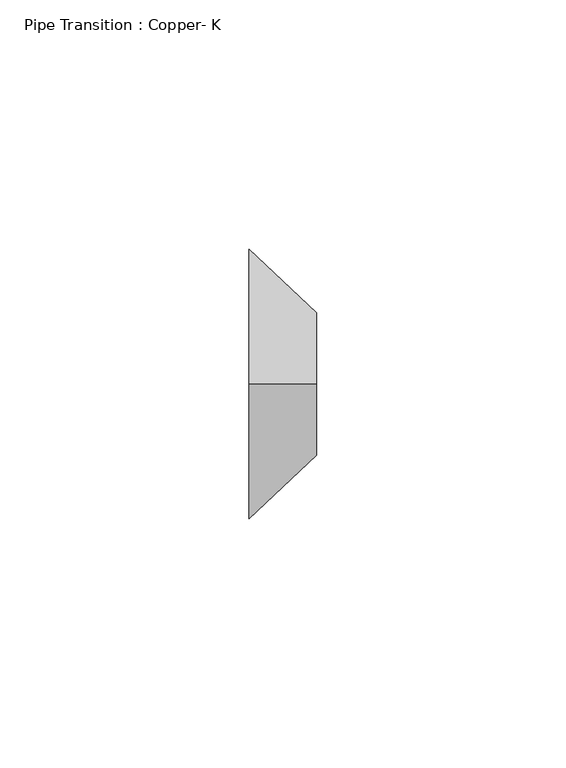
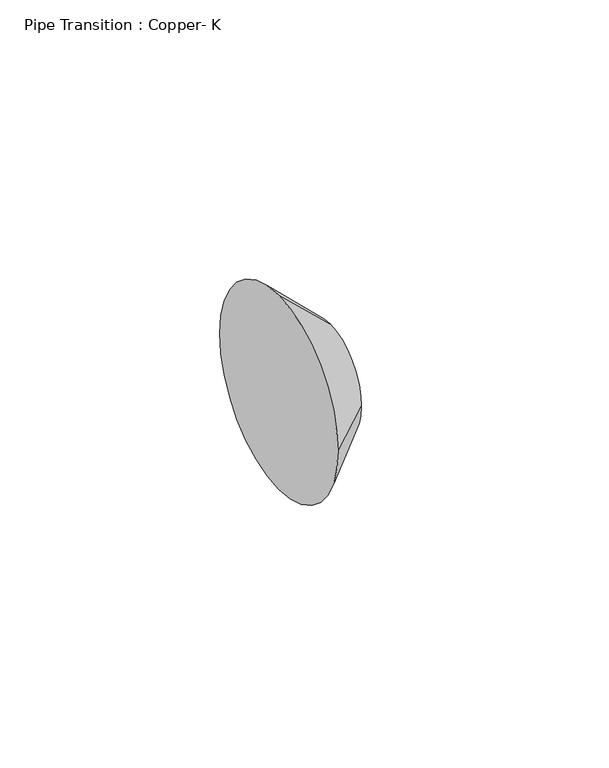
"""IFC4 building model written with IfcOpenShell, lengths in millimetres: pipe fitting geometry, Pipe Transition : Copper- K."""

from ifc_helpers import new_model, si_unit, frame, origin, place, context, project, spatial, polyline, circle_curve, source, transform, mapped, element, save
from ifc_brep_helpers import plane_surface, revolved_surface, advanced_brep


def pipe_transition_copper_k_5cd7eb3f(model_context):
    return source(origin(), model_context, "Body", "AdvancedBrep", [
        advanced_brep(
        [(13.49375, 0.0, 14.2875), (13.49375, -14.2875, 0.0), (13.49375, 0.0, -14.2875), (13.49375, 14.2875, 0.0), (0.0, 0.0, 26.9875), (0.0, 26.9875, 0.0), (0.0, 0.0, -26.9875), (0.0, -26.9875, 0.0)],
        [
            (0, 1, circle_curve(frame((13.49375, 0.0, 0.0), z_axis=(1.0, 0.0, 0.0), x_axis=(0.0, -1.0, 0.0)), 14.2875)),
            (1, 2, circle_curve(frame((13.49375, 0.0, 0.0), z_axis=(1.0, 0.0, 0.0), x_axis=(0.0, 0.0, -1.0)), 14.2875)),
            (2, 3, circle_curve(frame((13.49375, 0.0, 0.0), z_axis=(1.0, 0.0, 0.0), x_axis=(0.0, 1.0, 0.0)), 14.2875)),
            (3, 0, circle_curve(frame((13.49375, 0.0, 0.0), z_axis=(1.0, 0.0, 0.0), x_axis=(0.0, 0.0, 1.0)), 14.2875)),
            (4, 5, circle_curve(frame((0.0, 0.0, 0.0), z_axis=(-1.0, 0.0, 0.0), x_axis=(0.0, 0.0, 1.0)), 26.9875)),
            (5, 6, circle_curve(frame((0.0, 0.0, 0.0), z_axis=(-1.0, 0.0, 0.0), x_axis=(0.0, 1.0, 0.0)), 26.9875)),
            (6, 7, circle_curve(frame((0.0, 0.0, 0.0), z_axis=(-1.0, 0.0, 0.0), x_axis=(0.0, 0.0, -1.0)), 26.9875)),
            (7, 4, circle_curve(frame((0.0, 0.0, 0.0), z_axis=(-1.0, 0.0, 0.0), x_axis=(0.0, -1.0, 0.0)), 26.9875)),
            (4, 0),
            (3, 5),
            (2, 6),
            (1, 7),
        ],
        [
            plane_surface(frame((13.49375, 0.0, 0.0), z_axis=(1.0, 0.0, 0.0), x_axis=(0.0, 1.0, 0.0))),
            plane_surface(frame((0.0, 0.0, 0.0), z_axis=(-1.0, 0.0, 0.0), x_axis=(0.0, 1.0, 0.0))),
            revolved_surface(polyline([(13.493750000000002, 0.0, 14.287500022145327), (0.0, 0.0, 26.9875)]), (28.6742188, 0.0, 0.0), (-1.0, 0.0, 0.0)),
            revolved_surface(polyline([(13.493750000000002, 14.287500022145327, 0.0), (0.0, 26.9875, 0.0)]), (28.6742188, 0.0, 0.0), (-1.0, 0.0, 0.0)),
            revolved_surface(polyline([(13.493750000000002, 0.0, -14.287500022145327), (0.0, 0.0, -26.9875)]), (28.6742188, 0.0, 0.0), (-1.0, 0.0, 0.0)),
            revolved_surface(polyline([(13.493750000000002, -14.287500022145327, 0.0), (0.0, -26.9875, 0.0)]), (28.6742188, 0.0, 0.0), (-1.0, 0.0, 0.0)),
        ],
        [
            (0, [[1, 2, 3, 4]]),
            (1, [[5, 6, 7, 8]]),
            (2, [[9, -4, 10, -5]]),
            (3, [[-10, -3, 11, -6]]),
            (4, [[-11, -2, 12, -7]]),
            (5, [[-12, -1, -9, -8]]),
        ],
    ),
        advanced_brep(
        [(13.49375, 0.0, 14.2875), (13.49375, -14.2875, 0.0), (13.49375, 0.0, -14.2875), (13.49375, 14.2875, 0.0), (0.0, 0.0, 26.9875), (0.0, 26.9875, 0.0), (0.0, 0.0, -26.9875), (0.0, -26.9875, 0.0)],
        [
            (0, 1, circle_curve(frame((13.49375, 0.0, 0.0), z_axis=(1.0, 0.0, 0.0), x_axis=(0.0, -1.0, 0.0)), 14.2875)),
            (1, 2, circle_curve(frame((13.49375, 0.0, 0.0), z_axis=(1.0, 0.0, 0.0), x_axis=(0.0, 0.0, -1.0)), 14.2875)),
            (2, 3, circle_curve(frame((13.49375, 0.0, 0.0), z_axis=(1.0, 0.0, 0.0), x_axis=(0.0, 1.0, 0.0)), 14.2875)),
            (3, 0, circle_curve(frame((13.49375, 0.0, 0.0), z_axis=(1.0, 0.0, 0.0), x_axis=(0.0, 0.0, 1.0)), 14.2875)),
            (4, 5, circle_curve(frame((0.0, 0.0, 0.0), z_axis=(-1.0, 0.0, 0.0), x_axis=(0.0, 0.0, 1.0)), 26.9875)),
            (5, 6, circle_curve(frame((0.0, 0.0, 0.0), z_axis=(-1.0, 0.0, 0.0), x_axis=(0.0, 1.0, 0.0)), 26.9875)),
            (6, 7, circle_curve(frame((0.0, 0.0, 0.0), z_axis=(-1.0, 0.0, 0.0), x_axis=(0.0, 0.0, -1.0)), 26.9875)),
            (7, 4, circle_curve(frame((0.0, 0.0, 0.0), z_axis=(-1.0, 0.0, 0.0), x_axis=(0.0, -1.0, 0.0)), 26.9875)),
            (4, 0),
            (3, 5),
            (2, 6),
            (1, 7),
        ],
        [
            plane_surface(frame((13.49375, 0.0, 0.0), z_axis=(1.0, 0.0, 0.0), x_axis=(0.0, 1.0, 0.0))),
            plane_surface(frame((0.0, 0.0, 0.0), z_axis=(-1.0, 0.0, 0.0), x_axis=(0.0, 1.0, 0.0))),
            revolved_surface(polyline([(13.493750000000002, 0.0, 14.287500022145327), (0.0, 0.0, 26.9875)]), (28.6742188, 0.0, 0.0), (-1.0, 0.0, 0.0)),
            revolved_surface(polyline([(13.493750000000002, 14.287500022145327, 0.0), (0.0, 26.9875, 0.0)]), (28.6742188, 0.0, 0.0), (-1.0, 0.0, 0.0)),
            revolved_surface(polyline([(13.49375, 0.0, -14.28749997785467), (0.0, 0.0, -26.9875)]), (28.6742187, 0.0, 0.0), (-1.0, 0.0, 0.0)),
            revolved_surface(polyline([(13.49375, -14.28749997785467, 0.0), (0.0, -26.9875, 0.0)]), (28.6742187, 0.0, 0.0), (-1.0, 0.0, 0.0)),
        ],
        [
            (0, [[1, 2, 3, 4]]),
            (1, [[5, 6, 7, 8]]),
            (2, [[9, -4, 10, -5]]),
            (3, [[-10, -3, 11, -6]]),
            (4, [[-11, -2, 12, -7]]),
            (5, [[-12, -1, -9, -8]]),
        ],
    ),
    ])


if __name__ == "__main__":
    model = new_model("IFC4")
    model_context = context("Model", 3, world=origin())
    ifc_project = project(units=[si_unit("LENGTHUNIT", "METRE", prefix="MILLI")], contexts=[model_context])
    site = spatial("IfcSite", under=ifc_project)
    building = spatial("IfcBuilding", under=site)
    placement = place(None, origin())
    pipe_transition_copper_k_shape = pipe_transition_copper_k_5cd7eb3f(model_context)
    element("IfcPipeFitting", 1, ObjectType="Pipe Transition : Copper- K", at=placement, inside=building, context=model_context, shape_type="MappedRepresentation", body=[
        mapped(pipe_transition_copper_k_shape, transform((0.0, 0.0, 0.0), x_axis=(1.0, 0.0, 0.0), y_axis=(0.0, 1.0, 0.0), z_axis=(0.0, 0.0, 1.0))),
    ])
    save(model, "model.ifc")
